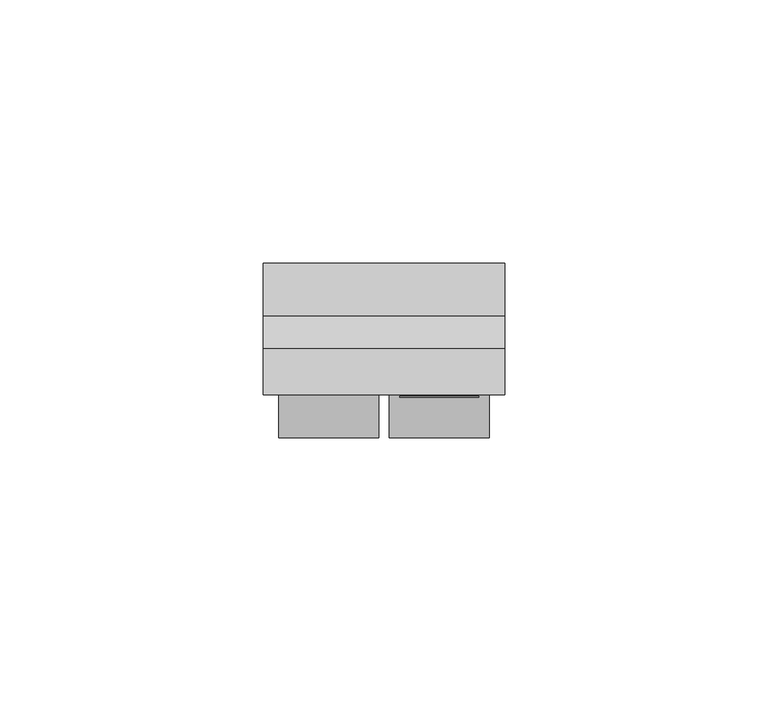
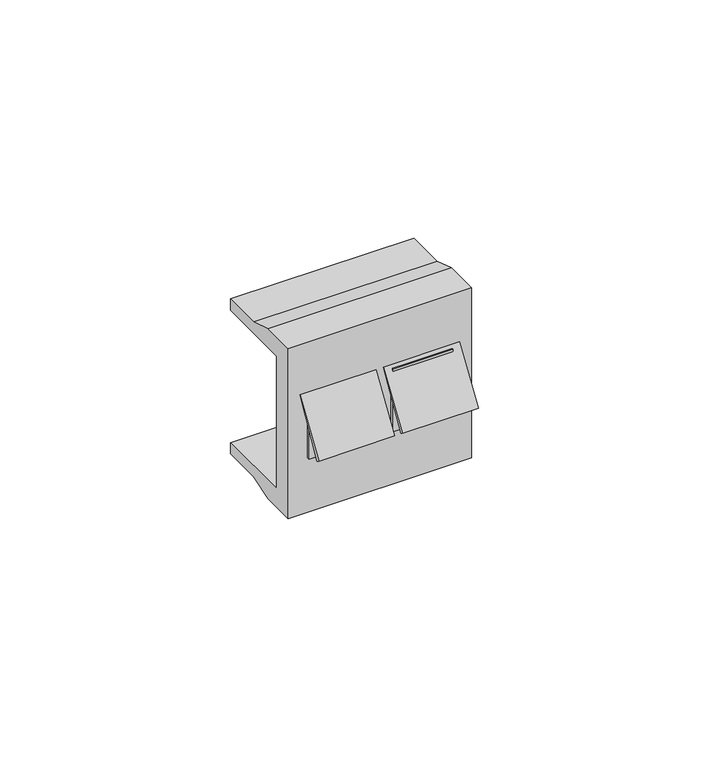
"""IFC4 building model written with IfcOpenShell, lengths in millimetres: proxy geometry, КНС_ТелефонныеРозетки_DKC : Белый."""

from ifc_helpers import new_model, si_unit, frame, origin, place, context, project, spatial, polyline, outline, extrude, faceted_brep, source, transform, mapped, element, save


def electrical_fixtures_07d94f85(model_context):
    return source(origin(), model_context, "Body", "SolidModel", [
        faceted_brep([(17.976911, -25.5, 8.25), (2.976911, -25.5, 8.25), (2.976911, -25.5, -8.25), (17.976911, -25.5, -8.25), (7.8786097, -25.5, -1.0094154), (5.976911, -25.5, -1.0094154), (5.976911, -25.5, 4.0137937), (14.976911, -25.5, 4.0137937), (14.976911, -25.5, -1.0094154), (13.0752123, -25.5, -1.0094154), (13.0752123, -25.5, -2.6364348), (11.7084424, -25.5, -2.6364348), (11.7084424, -25.5, -3.7403811), (9.2453796, -25.5, -3.7403811), (9.2453796, -25.5, -2.6364348), (7.8786097, -25.5, -2.6364348), (17.976911, -16.2913439, 8.25), (17.976911, -16.2913439, -8.25), (2.976911, -16.2913439, -8.25), (2.976911, -16.2913439, 8.25), (5.976911, -20.0, -1.0094154), (7.8786097, -20.0, -1.0094154), (7.8786097, -20.0, -2.6364348), (9.2453796, -20.0, -2.6364348), (9.2453796, -20.0, -3.7403811), (11.7084424, -20.0, -3.7403811), (11.7084424, -20.0, -2.6364348), (13.0752123, -20.0, -2.6364348), (13.0752123, -20.0, -1.0094154), (14.976911, -20.0, -1.0094154), (14.976911, -20.0, 4.0137937), (5.976911, -20.0, 4.0137937)], [[[0, 1, 2, 3], [4, 5, 6, 7, 8, 9, 10, 11, 12, 13, 14, 15]], [[16, 17, 18, 19]], [[1, 0, 16, 19]], [[2, 1, 19, 18]], [[3, 2, 18, 17]], [[0, 3, 17, 16]], [[20, 21, 22, 23, 24, 25, 26, 27, 28, 29, 30, 31]], [[21, 20, 5, 4]], [[22, 21, 4, 15]], [[23, 22, 15, 14]], [[24, 23, 14, 13]], [[25, 24, 13, 12]], [[26, 25, 12, 11]], [[27, 26, 11, 10]], [[28, 27, 10, 9]], [[29, 28, 9, 8]], [[30, 29, 8, 7]], [[31, 30, 7, 6]], [[20, 31, 6, 5]]]),
        extrude(outline(polyline([(-32.5, -3.7403811), (-33.1818268, -3.3467281), (-25.0, 9.25), (-32.5, -3.7403811)])), frame((0.953822, 0.0, 0.0), z_axis=(1.0, 0.0, 0.0), x_axis=(0.0, 1.0, 0.0)), (0.0, 0.0, 1.0), 19.046178),
        extrude(outline(polyline([(-32.5, -3.7403811), (-33.1818268, -3.3467281), (-25.0, 9.25), (-32.5, -3.7403811)])), frame((-20.0, 0.0, 0.0), z_axis=(1.0, 0.0, 0.0), x_axis=(0.0, 1.0, 0.0)), (0.0, 0.0, 1.0), 19.0),
        faceted_brep([(-3.023089, -25.5, 8.25), (-17.976911, -25.5, 8.25), (-17.976911, -25.5, -8.25), (-3.023089, -25.5, -8.25), (-9.2915576, -25.5, -3.7403811), (-11.7084424, -25.5, -3.7403811), (-11.7084424, -25.5, -2.6364348), (-13.0752123, -25.5, -2.6364348), (-13.0752123, -25.5, -1.0094154), (-14.976911, -25.5, -1.0094154), (-14.976911, -25.5, 4.0137937), (-6.023089, -25.5, 4.0137937), (-6.023089, -25.5, -1.0094154), (-7.9247877, -25.5, -1.0094154), (-7.9247877, -25.5, -2.6364348), (-9.2915576, -25.5, -2.6364348), (-3.023089, -16.2913439, 8.25), (-3.023089, -16.2913439, -8.25), (-17.976911, -16.2913439, -8.25), (-17.976911, -16.2913439, 8.25), (-6.023089, -20.0, -1.0094154), (-6.023089, -20.0, 4.0137937), (-14.976911, -20.0, 4.0137937), (-14.976911, -20.0, -1.0094154), (-13.0752123, -20.0, -1.0094154), (-13.0752123, -20.0, -2.6364348), (-11.7084424, -20.0, -2.6364348), (-11.7084424, -20.0, -3.7403811), (-9.2915576, -20.0, -3.7403811), (-9.2915576, -20.0, -2.6364348), (-7.9247877, -20.0, -2.6364348), (-7.9247877, -20.0, -1.0094154)], [[[0, 1, 2, 3], [4, 5, 6, 7, 8, 9, 10, 11, 12, 13, 14, 15]], [[16, 17, 18, 19]], [[1, 0, 16, 19]], [[2, 1, 19, 18]], [[3, 2, 18, 17]], [[0, 3, 17, 16]], [[20, 21, 22, 23, 24, 25, 26, 27, 28, 29, 30, 31]], [[28, 27, 5, 4]], [[29, 28, 4, 15]], [[30, 29, 15, 14]], [[31, 30, 14, 13]], [[20, 31, 13, 12]], [[21, 20, 12, 11]], [[22, 21, 11, 10]], [[23, 22, 10, 9]], [[24, 23, 9, 8]], [[25, 24, 8, 7]], [[26, 25, 7, 6]], [[27, 26, 6, 5]]]),
        faceted_brep([(23.0, -25.0, 22.5), (-23.0, -25.0, 22.5), (-23.0, -25.0, -22.5), (23.0, -25.0, -22.5), (7.8786097, -25.0, -1.0094154), (5.976911, -25.0, -1.0094154), (5.976911, -25.0, 4.0137937), (14.976911, -25.0, 4.0137937), (14.976911, -25.0, -1.0094154), (13.0752123, -25.0, -1.0094154), (13.0752123, -25.0, -2.6364348), (11.7084424, -25.0, -2.6364348), (11.7084424, -25.0, -3.7403811), (9.2453796, -25.0, -3.7403811), (9.2453796, -25.0, -2.6364348), (7.8786097, -25.0, -2.6364348), (-9.2915576, -25.0, -3.7403811), (-11.7084424, -25.0, -3.7403811), (-11.7084424, -25.0, -2.6364348), (-13.0752123, -25.0, -2.6364348), (-13.0752123, -25.0, -1.0094154), (-14.976911, -25.0, -1.0094154), (-14.976911, -25.0, 4.0137937), (-6.023089, -25.0, 4.0137937), (-6.023089, -25.0, -1.0094154), (-7.9247877, -25.0, -1.0094154), (-7.9247877, -25.0, -2.6364348), (-9.2915576, -25.0, -2.6364348), (23.0, 0.0, 20.5), (23.0, 0.0, 17.5), (-23.0, 0.0, 17.5), (-23.0, 0.0, 20.5), (23.0, 0.0, -17.5), (23.0, 0.0, -20.5), (-23.0, 0.0, -20.5), (-23.0, 0.0, -17.5), (23.0, -16.2913439, 22.5), (-23.0, -16.2913439, 22.5), (-23.0, -10.0, 20.5), (-23.0, -20.0, 17.5), (-23.0, -20.0, -17.5), (-23.0, -10.0, -20.5), (-23.0, -16.2913439, -22.5), (23.0, -16.2913439, -22.5), (23.0, -10.0, -20.5), (23.0, -20.0, -17.5), (23.0, -20.0, 17.5), (23.0, -10.0, 20.5), (5.976911, -20.0, -1.0094154), (7.8786097, -20.0, -1.0094154), (7.8786097, -20.0, -2.6364348), (9.2453796, -20.0, -2.6364348), (9.2453796, -20.0, -3.7403811), (11.7084424, -20.0, -3.7403811), (11.7084424, -20.0, -2.6364348), (13.0752123, -20.0, -2.6364348), (13.0752123, -20.0, -1.0094154), (14.976911, -20.0, -1.0094154), (14.976911, -20.0, 4.0137937), (5.976911, -20.0, 4.0137937), (-11.7084424, -20.0, -3.7403811), (-9.2915576, -20.0, -3.7403811), (-9.2915576, -20.0, -2.6364348), (-7.9247877, -20.0, -2.6364348), (-7.9247877, -20.0, -1.0094154), (-6.023089, -20.0, -1.0094154), (-6.023089, -20.0, 4.0137937), (-14.976911, -20.0, 4.0137937), (-14.976911, -20.0, -1.0094154), (-13.0752123, -20.0, -1.0094154), (-13.0752123, -20.0, -2.6364348), (-11.7084424, -20.0, -2.6364348)], [[[0, 1, 2, 3], [4, 5, 6, 7, 8, 9, 10, 11, 12, 13, 14, 15], [16, 17, 18, 19, 20, 21, 22, 23, 24, 25, 26, 27]], [[28, 29, 30, 31]], [[32, 33, 34, 35]], [[1, 0, 36, 37]], [[2, 1, 37, 38, 31, 30, 39, 40, 35, 34, 41, 42]], [[3, 2, 42, 43]], [[0, 3, 43, 44, 33, 32, 45, 46, 29, 28, 47, 36]], [[40, 45, 32, 35]], [[46, 39, 30, 29]], [[45, 40, 39, 46], [48, 49, 50, 51, 52, 53, 54, 55, 56, 57, 58, 59], [60, 61, 62, 63, 64, 65, 66, 67, 68, 69, 70, 71]], [[38, 47, 28, 31]], [[47, 38, 37, 36]], [[44, 41, 34, 33]], [[41, 44, 43, 42]], [[48, 5, 4, 49]], [[49, 4, 15, 50]], [[50, 15, 14, 51]], [[51, 14, 13, 52]], [[52, 13, 12, 53]], [[53, 12, 11, 54]], [[54, 11, 10, 55]], [[55, 10, 9, 56]], [[56, 9, 8, 57]], [[57, 8, 7, 58]], [[58, 7, 6, 59]], [[5, 48, 59, 6]], [[60, 17, 16, 61]], [[61, 16, 27, 62]], [[62, 27, 26, 63]], [[63, 26, 25, 64]], [[64, 25, 24, 65]], [[65, 24, 23, 66]], [[66, 23, 22, 67]], [[67, 22, 21, 68]], [[68, 21, 20, 69]], [[69, 20, 19, 70]], [[70, 19, 18, 71]], [[17, 60, 71, 18]]]),
    ])


if __name__ == "__main__":
    model = new_model("IFC4")
    model_context = context("Model", 3, world=origin())
    ifc_project = project(units=[si_unit("LENGTHUNIT", "METRE", prefix="MILLI")], contexts=[model_context])
    site = spatial("IfcSite", under=ifc_project)
    building = spatial("IfcBuilding", under=site)
    placement = place(None, origin())
    electrical_fixtures_shape = electrical_fixtures_07d94f85(model_context)
    element("IfcBuildingElementProxy", 1, Name="КНС_ТелефонныеРозетки_DKC : Белый", ObjectType="КНС_ТелефонныеРозетки_DKC : Белый", at=placement, inside=building, context=model_context, shape_type="MappedRepresentation", body=[
        mapped(electrical_fixtures_shape, transform((0.0, 0.0, 0.0), x_axis=(1.0, 0.0, 0.0), y_axis=(0.0, 1.0, 0.0), z_axis=(0.0, 0.0, 1.0))),
    ])
    save(model, "model.ifc")
